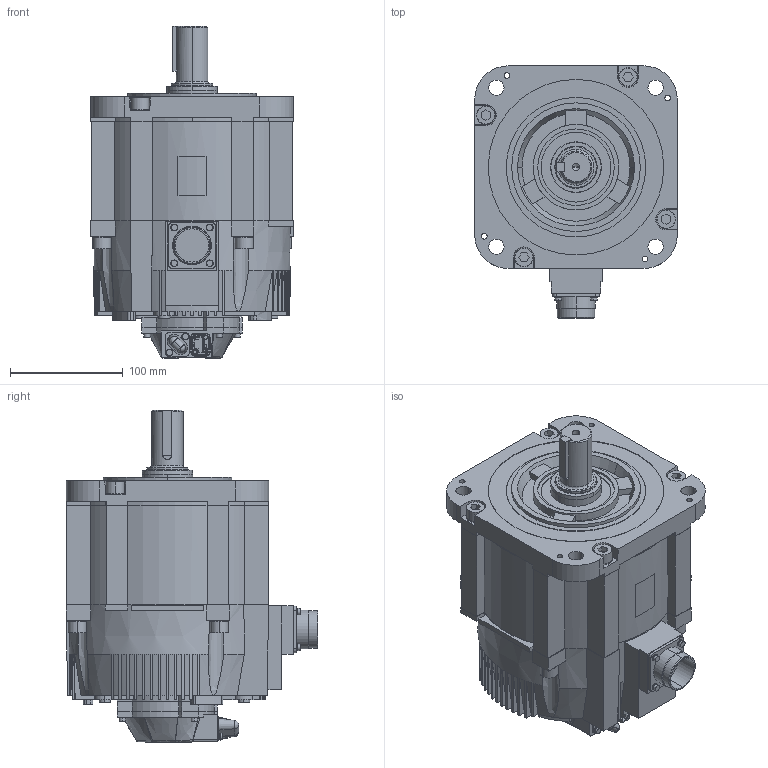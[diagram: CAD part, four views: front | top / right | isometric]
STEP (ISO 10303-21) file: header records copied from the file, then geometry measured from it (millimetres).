
FILE_DESCRIPTION (( 'STEP AP214' ), '1' );
FILE_NAME ('SGM7G-44APK-YR2.STEP', '2021-04-12T14:40:04', ( '' ), ( '' ), 'SwSTEP 2.0', 'SolidWorks 2019', '' );
FILE_SCHEMA (( 'AUTOMOTIVE_DESIGN' ));
Length unit declared in the file: millimetre
Products named in the file (1): SGM7G-44APK-YR2
Bounding box: 180 x 223.85 x 295 mm (x, y, z)
Volume: 5276883.8 mm3; surface area: 270330.2 mm2
Topology: 2 solids, 2 shells, 1100 faces, 2879 edges, 1868 vertices
Faces by surface type: plane 665, cylinder 284, cone 97, bspline 54
Entity records: 39172 total; most frequent: CARTESIAN_POINT 9193, ORIENTED_EDGE 5734, DIRECTION 5563, EDGE_CURVE 2867, AXIS2_PLACEMENT_3D 1954, VERTEX_POINT 1868, LINE 1655, VECTOR 1655
